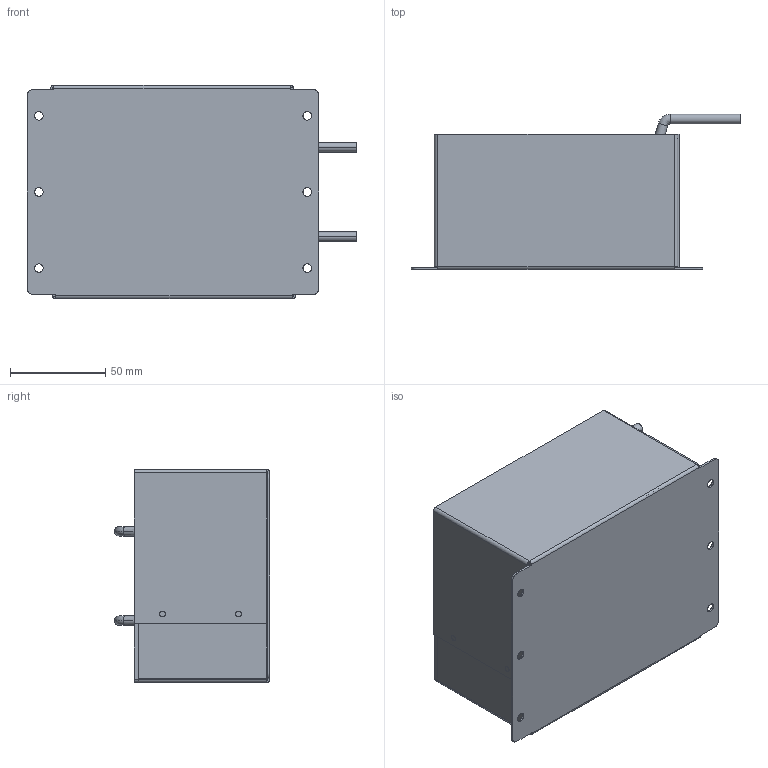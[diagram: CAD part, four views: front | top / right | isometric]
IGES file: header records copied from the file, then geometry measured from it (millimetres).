
Start section: SolidWorks IGES file using analytic representation for surfaces
Global section: file name: 19H\\10.106.230.1\r&d file\05_COMP\02_Mechanical\10_Others\PV_RT 81\网络用3D模型\灌封模型\S-5KW-P-DCL\S-5KW_P_DCL 总装.IGS; native system: SolidWorks 2009; preprocessor: SolidWorks 2009; author: 钱雅婧, ,; organization: 11; date: 120507.171213; units: millimetre
Bounding box: 172.9 x 81.5 x 112 mm (x, y, z)
Surface area: 168257.6 mm2 (no closed solid volume)
Topology: 0 solids, 0 shells, 114 faces, 828 edges, 828 vertices
Faces by surface type: bspline 66, revolution 48
